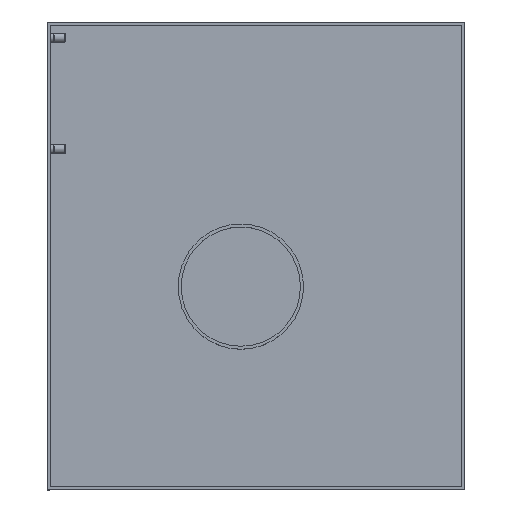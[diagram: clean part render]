
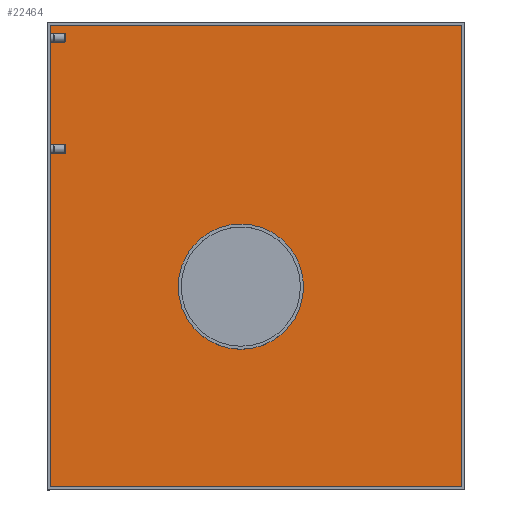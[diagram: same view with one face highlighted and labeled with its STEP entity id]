
A CAD part, top view. The second image highlights one B-rep face of the part: STEP entity #22464.
In plain terms, the highlighted planar face has unit normal (0, 0, 1).
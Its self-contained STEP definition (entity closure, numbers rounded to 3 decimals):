
#2503=FACE_BOUND('',#5131,.T.);
#3741=FACE_OUTER_BOUND('',#5130,.T.);
#5130=EDGE_LOOP('',(#20428,#20429,#20430,#20431));
#5131=EDGE_LOOP('',(#20432));
#5439=CIRCLE('',#23318,62.);
#7022=LINE('',#53089,#8598);
#7023=LINE('',#53091,#8599);
#7024=LINE('',#53093,#8600);
#7025=LINE('',#53094,#8601);
#8598=VECTOR('',#26609,10.);
#8599=VECTOR('',#26610,10.);
#8600=VECTOR('',#26611,10.);
#8601=VECTOR('',#26612,10.);
#10760=VERTEX_POINT('',#53046);
#10774=VERTEX_POINT('',#53087);
#10775=VERTEX_POINT('',#53088);
#10776=VERTEX_POINT('',#53090);
#10777=VERTEX_POINT('',#53092);
#13991=EDGE_CURVE('',#10760,#10760,#5439,.T.);
#14006=EDGE_CURVE('',#10774,#10775,#7022,.T.);
#14007=EDGE_CURVE('',#10775,#10776,#7023,.T.);
#14008=EDGE_CURVE('',#10776,#10777,#7024,.T.);
#14009=EDGE_CURVE('',#10777,#10774,#7025,.T.);
#20428=ORIENTED_EDGE('',*,*,#14006,.T.);
#20429=ORIENTED_EDGE('',*,*,#14007,.T.);
#20430=ORIENTED_EDGE('',*,*,#14008,.T.);
#20431=ORIENTED_EDGE('',*,*,#14009,.T.);
#20432=ORIENTED_EDGE('',*,*,#13991,.T.);
#20798=PLANE('',#23340);
#22464=ADVANCED_FACE('',(#3741,#2503),#20798,.T.);
#23318=AXIS2_PLACEMENT_3D('',#53047,#26559,#26560);
#23340=AXIS2_PLACEMENT_3D('',#53086,#26607,#26608);
#26559=DIRECTION('center_axis',(0.,0.,
-1.));
#26560=DIRECTION('ref_axis',(0.,1.,0.));
#26607=DIRECTION('center_axis',(0.,0.,
1.));
#26608=DIRECTION('ref_axis',(1.,0.,0.));
#26609=DIRECTION('',(0.,-1.,0.));
#26610=DIRECTION('',(1.,0.,0.));
#26611=DIRECTION('',(0.,1.,0.));
#26612=DIRECTION('',(-1.,0.,0.));
#53046=CARTESIAN_POINT('',(-0.01,-62.,3.));
#53047=CARTESIAN_POINT('Origin',(0.,0.,
3.));
#53086=CARTESIAN_POINT('Origin',(15.,30.5,3.));
#53087=CARTESIAN_POINT('',(-188.5,259.,3.));
#53088=CARTESIAN_POINT('',(-188.5,-198.,3.));
#53089=CARTESIAN_POINT('',(-188.5,30.5,3.));
#53090=CARTESIAN_POINT('',(218.5,-198.,3.));
#53091=CARTESIAN_POINT('',(15.,-198.,3.));
#53092=CARTESIAN_POINT('',(218.5,259.,3.));
#53093=CARTESIAN_POINT('',(218.5,30.5,3.));
#53094=CARTESIAN_POINT('',(15.,259.,3.));
